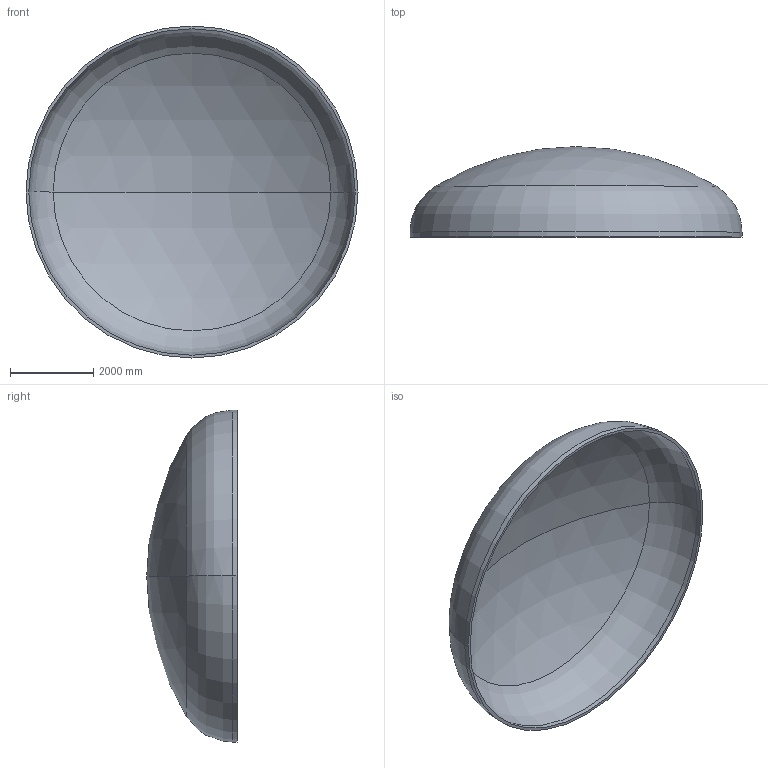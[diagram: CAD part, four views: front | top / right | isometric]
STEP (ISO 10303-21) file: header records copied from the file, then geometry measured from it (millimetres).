
FILE_DESCRIPTION (( 'STEP AP203' ), '1' );
FILE_NAME ('DIN 28013 Korbbogenform_-_Boden DIN 28013 - 8000 x 120 - I - s=68.step', '2016-07-04T11:03:21', ( '' ), ( '' ), 'SwSTEP 2.0', 'SolidWorks 2013', '' );
FILE_SCHEMA (( 'CONFIG_CONTROL_DESIGN' ));
Length unit declared in the file: millimetre
Products named in the file (1): DIN 28013 Korbbogenform_-_Boden DIN 28013 - 8000 x 120 - I - s=68
Bounding box: 8000 x 2180.27 x 8000 mm (x, y, z)
Volume: 4882910859.7 mm3; surface area: 145319153.4 mm2
Topology: 1 solids, 1 shells, 13 faces, 24 edges, 14 vertices
Faces by surface type: torus 4, cylinder 4, sphere 4, plane 1
Entity records: 407 total; most frequent: DIRECTION 72, CARTESIAN_POINT 52, ORIENTED_EDGE 48, AXIS2_PLACEMENT_3D 34, EDGE_CURVE 24, CIRCLE 20, EDGE_LOOP 14, VERTEX_POINT 14
